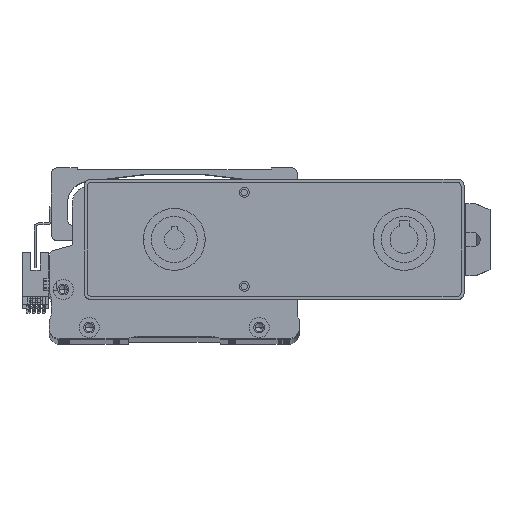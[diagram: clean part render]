
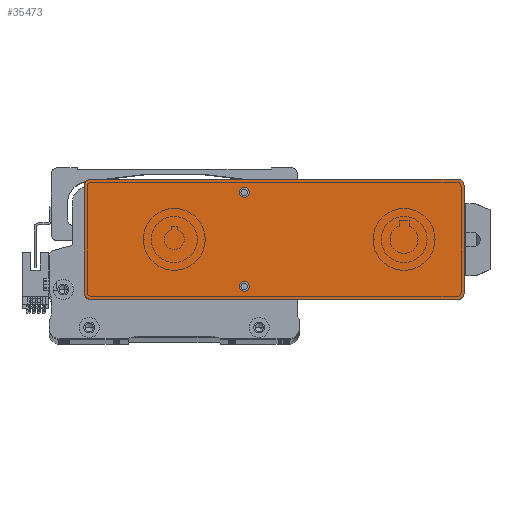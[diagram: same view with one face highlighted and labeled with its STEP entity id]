
A CAD part, top view. The second image highlights one B-rep face of the part: STEP entity #35473.
In plain terms, the highlighted planar face has unit normal (0, 0, 1) as drawn and (0, 0, -1) by its records, which use the part's own axes.
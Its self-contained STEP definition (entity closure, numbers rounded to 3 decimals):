
#12 = CARTESIAN_POINT ( 'NONE',  ( -15., -23.5, 0. ) ) ;
#15 = VERTEX_POINT ( 'NONE', #68215 ) ;
#46 = CIRCLE ( 'NONE', #35172, 2.5 ) ;
#285 = EDGE_LOOP ( 'NONE', ( #4093, #44316 ) ) ;
#289 = FACE_OUTER_BOUND ( 'NONE', #75452, .T. ) ;
#388 = CARTESIAN_POINT ( 'NONE',  ( -92., 30., 0. ) ) ;
#405 = LINE ( 'NONE', #60430, #67199 ) ;
#704 = CARTESIAN_POINT ( 'NONE',  ( -12.5, -23.5, 0. ) ) ;
#1315 = DIRECTION ( 'NONE',  ( 1., 0., 0. ) ) ;
#1468 = DIRECTION ( 'NONE',  ( 0., 0., -1. ) ) ;
#1725 = AXIS2_PLACEMENT_3D ( 'NONE', #37112, #82237, #43598 ) ;
#1780 = VERTEX_POINT ( 'NONE', #18927 ) ;
#2333 = FACE_BOUND ( 'NONE', #285, .T. ) ;
#2843 = EDGE_CURVE ( 'NONE', #55710, #21240, #46, .T. ) ;
#4093 = ORIENTED_EDGE ( 'NONE', *, *, #2843, .F. ) ;
#4684 = ORIENTED_EDGE ( 'NONE', *, *, #73561, .T. ) ;
#5305 = EDGE_CURVE ( 'NONE', #20839, #22995, #6491, .T. ) ;
#5907 = AXIS2_PLACEMENT_3D ( 'NONE', #40212, #1468, #46739 ) ;
#6491 = CIRCLE ( 'NONE', #37095, 3. ) ;
#6528 = DIRECTION ( 'NONE',  ( -1., 0., 0. ) ) ;
#6746 = ORIENTED_EDGE ( 'NONE', *, *, #14218, .F. ) ;
#7700 = CARTESIAN_POINT ( 'NONE',  ( -17.5, -23.5, 0. ) ) ;
#8143 = VERTEX_POINT ( 'NONE', #26476 ) ;
#9261 = CARTESIAN_POINT ( 'NONE',  ( -95., 27., 0. ) ) ;
#11230 = EDGE_CURVE ( 'NONE', #21240, #55710, #47633, .T. ) ;
#11942 = PLANE ( 'NONE',  #14859 ) ;
#13539 = VECTOR ( 'NONE', #47874, 1000. ) ;
#13917 = CARTESIAN_POINT ( 'NONE',  ( -95., -30., 0. ) ) ;
#14218 = EDGE_CURVE ( 'NONE', #79597, #22995, #30692, .T. ) ;
#14790 = DIRECTION ( 'NONE',  ( 0., 0., -1. ) ) ;
#14859 = AXIS2_PLACEMENT_3D ( 'NONE', #44488, #63990, #25162 ) ;
#15086 = DIRECTION ( 'NONE',  ( 0., 0., -1. ) ) ;
#15292 = CARTESIAN_POINT ( 'NONE',  ( 95., 30., 0. ) ) ;
#15827 = EDGE_CURVE ( 'NONE', #20839, #1780, #65854, .T. ) ;
#17446 = FACE_BOUND ( 'NONE', #28620, .T. ) ;
#18076 = VERTEX_POINT ( 'NONE', #27733 ) ;
#18927 = CARTESIAN_POINT ( 'NONE',  ( -95., -27., 0. ) ) ;
#18985 = DIRECTION ( 'NONE',  ( 0., 0., -1. ) ) ;
#19219 = CARTESIAN_POINT ( 'NONE',  ( 92., -30., 0. ) ) ;
#19668 = EDGE_CURVE ( 'NONE', #25279, #48675, #63170, .T. ) ;
#19792 = DIRECTION ( 'NONE',  ( 0., 0., -1. ) ) ;
#19955 = ORIENTED_EDGE ( 'NONE', *, *, #5305, .T. ) ;
#20074 = VERTEX_POINT ( 'NONE', #46766 ) ;
#20652 = AXIS2_PLACEMENT_3D ( 'NONE', #12, #45321, #6528 ) ;
#20839 = VERTEX_POINT ( 'NONE', #9261 ) ;
#21240 = VERTEX_POINT ( 'NONE', #704 ) ;
#21644 = DIRECTION ( 'NONE',  ( 0., 1., 0. ) ) ;
#22995 = VERTEX_POINT ( 'NONE', #388 ) ;
#23094 = EDGE_CURVE ( 'NONE', #79597, #8143, #27270, .T. ) ;
#25162 = DIRECTION ( 'NONE',  ( 1., 0., 0. ) ) ;
#25279 = VERTEX_POINT ( 'NONE', #73154 ) ;
#26476 = CARTESIAN_POINT ( 'NONE',  ( 95., 27., 0. ) ) ;
#27270 = CIRCLE ( 'NONE', #80683, 3. ) ;
#27479 = ORIENTED_EDGE ( 'NONE', *, *, #71592, .F. ) ;
#27733 = CARTESIAN_POINT ( 'NONE',  ( -12.5, 23.5, 0. ) ) ;
#28620 = EDGE_LOOP ( 'NONE', ( #36863, #27479 ) ) ;
#30692 = LINE ( 'NONE', #15292, #13539 ) ;
#35172 = AXIS2_PLACEMENT_3D ( 'NONE', #57795, #18985, #64311 ) ;
#35473 = ADVANCED_FACE ( 'NONE', ( #17446, #289, #2333 ), #11942, .F. ) ;
#36863 = ORIENTED_EDGE ( 'NONE', *, *, #69655, .F. ) ;
#37095 = AXIS2_PLACEMENT_3D ( 'NONE', #78736, #40078, #1315 ) ;
#37112 = CARTESIAN_POINT ( 'NONE',  ( -92., -27., 0. ) ) ;
#37553 = CIRCLE ( 'NONE', #77598, 3. ) ;
#40078 = DIRECTION ( 'NONE',  ( 0., 0., -1. ) ) ;
#40212 = CARTESIAN_POINT ( 'NONE',  ( -15., 23.5, 0. ) ) ;
#41048 = CIRCLE ( 'NONE', #1725, 3. ) ;
#41777 = ORIENTED_EDGE ( 'NONE', *, *, #65577, .F. ) ;
#43598 = DIRECTION ( 'NONE',  ( 1., 0., 0. ) ) ;
#44316 = ORIENTED_EDGE ( 'NONE', *, *, #11230, .F. ) ;
#44488 = CARTESIAN_POINT ( 'NONE',  ( 0., 0., 0. ) ) ;
#44989 = ORIENTED_EDGE ( 'NONE', *, *, #23094, .T. ) ;
#45321 = DIRECTION ( 'NONE',  ( 0., 0., -1. ) ) ;
#45993 = VECTOR ( 'NONE', #67985, 1000. ) ;
#46739 = DIRECTION ( 'NONE',  ( -1., 0., 0. ) ) ;
#46766 = CARTESIAN_POINT ( 'NONE',  ( -17.5, 23.5, 0. ) ) ;
#47611 = CIRCLE ( 'NONE', #55627, 2.5 ) ;
#47633 = CIRCLE ( 'NONE', #20652, 2.5 ) ;
#47874 = DIRECTION ( 'NONE',  ( -1., 0., 0. ) ) ;
#48675 = VERTEX_POINT ( 'NONE', #19219 ) ;
#48719 = EDGE_CURVE ( 'NONE', #15, #48675, #37553, .T. ) ;
#53263 = DIRECTION ( 'NONE',  ( 0., -1., 0. ) ) ;
#53560 = CARTESIAN_POINT ( 'NONE',  ( 92., 27., 0. ) ) ;
#53798 = ORIENTED_EDGE ( 'NONE', *, *, #15827, .F. ) ;
#53864 = CARTESIAN_POINT ( 'NONE',  ( -15., 23.5, 0. ) ) ;
#55627 = AXIS2_PLACEMENT_3D ( 'NONE', #53864, #15086, #60358 ) ;
#55710 = VERTEX_POINT ( 'NONE', #7700 ) ;
#57795 = CARTESIAN_POINT ( 'NONE',  ( -15., -23.5, 0. ) ) ;
#58608 = CARTESIAN_POINT ( 'NONE',  ( 92., -27., 0. ) ) ;
#60045 = DIRECTION ( 'NONE',  ( 1., 0., 0. ) ) ;
#60358 = DIRECTION ( 'NONE',  ( -1., 0., 0. ) ) ;
#60430 = CARTESIAN_POINT ( 'NONE',  ( 95., -30., 0. ) ) ;
#61561 = CIRCLE ( 'NONE', #5907, 2.5 ) ;
#63170 = LINE ( 'NONE', #74472, #45993 ) ;
#63990 = DIRECTION ( 'NONE',  ( 0., 0., 1. ) ) ;
#64311 = DIRECTION ( 'NONE',  ( -1., 0., 0. ) ) ;
#65090 = DIRECTION ( 'NONE',  ( 1., 0., 0. ) ) ;
#65366 = ORIENTED_EDGE ( 'NONE', *, *, #19668, .F. ) ;
#65577 = EDGE_CURVE ( 'NONE', #15, #8143, #405, .T. ) ;
#65854 = LINE ( 'NONE', #13917, #80976 ) ;
#67199 = VECTOR ( 'NONE', #21644, 1000. ) ;
#67985 = DIRECTION ( 'NONE',  ( 1., 0., 0. ) ) ;
#68215 = CARTESIAN_POINT ( 'NONE',  ( 95., -27., 0. ) ) ;
#69655 = EDGE_CURVE ( 'NONE', #20074, #18076, #47611, .T. ) ;
#71592 = EDGE_CURVE ( 'NONE', #18076, #20074, #61561, .T. ) ;
#73154 = CARTESIAN_POINT ( 'NONE',  ( -92., -30., 0. ) ) ;
#73561 = EDGE_CURVE ( 'NONE', #25279, #1780, #41048, .T. ) ;
#74472 = CARTESIAN_POINT ( 'NONE',  ( 95., -30., 0. ) ) ;
#75048 = ORIENTED_EDGE ( 'NONE', *, *, #48719, .T. ) ;
#75452 = EDGE_LOOP ( 'NONE', ( #41777, #75048, #65366, #4684, #53798, #19955, #6746, #44989 ) ) ;
#77598 = AXIS2_PLACEMENT_3D ( 'NONE', #58608, #19792, #65090 ) ;
#78736 = CARTESIAN_POINT ( 'NONE',  ( -92., 27., 0. ) ) ;
#79550 = CARTESIAN_POINT ( 'NONE',  ( 92., 30., 0. ) ) ;
#79597 = VERTEX_POINT ( 'NONE', #79550 ) ;
#80683 = AXIS2_PLACEMENT_3D ( 'NONE', #53560, #14790, #60045 ) ;
#80976 = VECTOR ( 'NONE', #53263, 1000. ) ;
#82237 = DIRECTION ( 'NONE',  ( 0., 0., -1. ) ) ;
